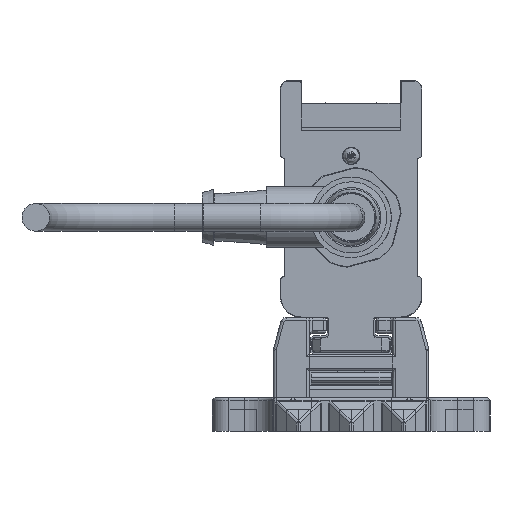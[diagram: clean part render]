
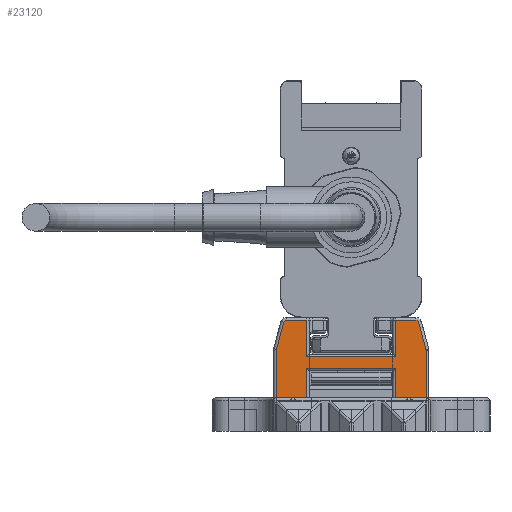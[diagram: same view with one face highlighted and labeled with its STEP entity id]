
A CAD part, left-side view. The second image highlights one B-rep face of the part: STEP entity #23120.
In plain terms, the highlighted planar face has unit normal (-1, 0, 0).
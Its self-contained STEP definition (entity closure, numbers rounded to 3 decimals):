
#23120=ADVANCED_FACE('', (#23130), #23140, .T.);
#117610=AXIS2_PLACEMENT_3D('Ax2Pl3d', #117620, #117630, #117640);
#117850=AXIS2_PLACEMENT_3D('Ax2Pl3d', #117860, #117870, #117880);
#122730=AXIS2_PLACEMENT_3D('Ax2Pl3d', #122740, #122750, #122760);
#127810=AXIS2_PLACEMENT_3D('Ax2Pl3d', #127820, #127830, #127840);
#137490=AXIS2_PLACEMENT_3D('Ax2Pl3d', #137500, #137510, #137520);
#453240=CARTESIAN_POINT('', (-747.669,-1446.345,
331.37));
#117620=CARTESIAN_POINT('HicPkt', (-747.669,-1445.379,
331.111));
#453250=CARTESIAN_POINT('', (-747.669,-1446.379,
331.111));
#453260=CARTESIAN_POINT('', (-747.669,-1445.037,
336.255));
#453280=CARTESIAN_POINT('', (-747.669,-1445.037,
336.255));
#453310=CARTESIAN_POINT('', (-747.669,-1444.554,
336.625));
#117860=CARTESIAN_POINT('HicPkt', (-747.669,-1444.554,
336.125));
#453530=CARTESIAN_POINT('', (-747.669,-1446.379,
322.625));
#453540=CARTESIAN_POINT('', (-747.669,-1440.881,
322.625));
#453550=CARTESIAN_POINT('', (-747.669,-1440.881,
322.625));
#453630=CARTESIAN_POINT('', (-747.669,-1424.881,
322.625));
#453640=CARTESIAN_POINT('', (-747.669,-1419.383,
322.625));
#453650=CARTESIAN_POINT('', (-747.669,-1419.383,
322.625));
#122740=CARTESIAN_POINT('HicPkt', (-747.669,-1421.209,
336.125));
#456120=CARTESIAN_POINT('', (-747.669,-1420.726,
336.255));
#456130=CARTESIAN_POINT('', (-747.669,-1421.209,
336.625));
#456140=CARTESIAN_POINT('', (-747.669,-1440.881,
330.025));
#456150=CARTESIAN_POINT('', (-747.669,-1424.881,
330.025));
#456160=CARTESIAN_POINT('', (-747.669,-1440.881,
330.025));
#456320=CARTESIAN_POINT('', (-747.669,-1440.881,
328.005));
#456330=CARTESIAN_POINT('', (-747.669,-1424.881,
328.005));
#456340=CARTESIAN_POINT('', (-747.669,-1424.881,
328.005));
#456350=CARTESIAN_POINT('', (-747.669,-1440.881,
328.005));
#456370=CARTESIAN_POINT('', (-747.669,-1424.881,
322.625));
#456380=CARTESIAN_POINT('', (-747.669,-1424.881,
330.025));
#456390=CARTESIAN_POINT('', (-747.669,-1424.881,
336.625));
#457240=CARTESIAN_POINT('', (-747.669,-1424.881,
336.625));
#457250=CARTESIAN_POINT('', (-747.669,-1420.726,
336.255));
#457260=CARTESIAN_POINT('', (-747.669,-1419.417,
331.37));
#457450=CARTESIAN_POINT('', (-747.669,-1419.383,
331.111));
#457460=CARTESIAN_POINT('', (-747.669,-1419.383,
331.111));
#127820=CARTESIAN_POINT('HicPkt', (-747.669,-1420.383,
331.111));
#458270=CARTESIAN_POINT('', (-747.669,-1446.379,
331.111));
#137500=CARTESIAN_POINT('HicPkt', (-747.669,-1444.554,
336.625));
#460070=CARTESIAN_POINT('', (-747.669,-1440.881,
336.625));
#460080=CARTESIAN_POINT('', (-747.669,-1440.881,
336.625));
#460090=CARTESIAN_POINT('', (-747.669,-1440.881,
336.625));
#522140=CIRCLE('Circle', #117610, 1.);
#522180=CIRCLE('Circle', #117850, 0.5);
#522760=CIRCLE('Circle', #122730, 0.5);
#523290=CIRCLE('Circle', #127810, 1.);
#117630=DIRECTION('Axis', (-1.,0.,
0.));
#117640=DIRECTION('RefDirection', (0.,
0.,-1.));
#730180=DIRECTION('', (0.,0.259,
0.966));
#117870=DIRECTION('Axis', (-1.,0.,
0.));
#117880=DIRECTION('RefDirection', (0.,
0.,-1.));
#730290=DIRECTION('', (0.,1.,0.));
#730330=DIRECTION('', (0.,1.,0.));
#122750=DIRECTION('Axis', (1.,0.,
0.));
#122760=DIRECTION('RefDirection', (0.,
0.,-1.));
#731520=DIRECTION('', (0.,-1.,0.));
#731620=DIRECTION('', (0.,1.,0.));
#731630=DIRECTION('', (0.,0.,1.));
#731650=DIRECTION('', (0.,0.,-1.));
#731660=DIRECTION('', (0.,0.,-1.));
#732090=DIRECTION('', (0.,-1.,0.));
#732100=DIRECTION('', (0.,-0.259,0.966));
#732190=DIRECTION('', (0.,0.,1.));
#127830=DIRECTION('Axis', (1.,0.,
0.));
#127840=DIRECTION('RefDirection', (0.,
0.,-1.));
#732560=DIRECTION('', (0.,0.,1.));
#137510=DIRECTION('Axis', (-1.,0.,
0.));
#137520=DIRECTION('RefDirection', (0.,
0.,-1.));
#733400=DIRECTION('', (0.,1.,0.));
#733410=DIRECTION('', (0.,0.,1.));
#785930=EDGE_CURVE('', #785940, #785920, #522140, .T.);
#785990=EDGE_CURVE('', #785920, #785970, #786000, .T.);
#786060=EDGE_CURVE('', #785970, #786050, #522180, .T.);
#786510=EDGE_CURVE('', #786500, #786520, #786530, .T.);
#786670=EDGE_CURVE('', #786660, #786680, #786690, .T.);
#791030=EDGE_CURVE('', #791040, #791050, #522760, .T.);
#791080=EDGE_CURVE('', #791090, #791100, #791110, .T.);
#791450=EDGE_CURVE('', #791430, #791460, #791470, .T.);
#791500=EDGE_CURVE('', #786520, #791430, #791510, .T.);
#791540=EDGE_CURVE('', #791460, #786660, #791550, .T.);
#791560=EDGE_CURVE('', #791570, #791090, #791580, .T.);
#793400=EDGE_CURVE('', #791050, #791570, #793410, .T.);
#793470=EDGE_CURVE('', #793480, #791040, #793490, .T.);
#793910=EDGE_CURVE('', #786680, #793920, #793930, .T.);
#793950=EDGE_CURVE('', #793920, #793480, #523290, .T.);
#795660=EDGE_CURVE('', #786500, #785940, #795670, .T.);
#799470=EDGE_CURVE('', #786050, #799480, #799490, .T.);
#799500=EDGE_CURVE('', #791100, #799480, #799510, .T.);
#950330=EDGE_LOOP('Edge_loop', (#950340,#950350,#950360,#950370,#950380,
#950390,#950400,#950410,#950420,#950430,#950440,#950450,#950460,#950470,
#950480,#950490,#950500,#950510));
#23130=FACE_OUTER_BOUND('Face_outer_bound', #950330, .T.);
#786000=LINE('Line', #453280, #1078570);
#786530=LINE('Line', #453540, #1078680);
#786690=LINE('Line', #453640, #1078720);
#791110=LINE('Line', #456140, #1079910);
#791470=LINE('Line', #456330, #1080010);
#791510=LINE('Line', #456350, #1080020);
#791550=LINE('Line', #456370, #1080040);
#791580=LINE('Line', #456380, #1080050);
#793410=LINE('Line', #457240, #1080480);
#793490=LINE('Line', #457250, #1080490);
#793930=LINE('Line', #457450, #1080580);
#795670=LINE('Line', #458270, #1080950);
#799490=LINE('Line', #460070, #1081790);
#799510=LINE('Line', #460090, #1081800);
#950340=ORIENTED_EDGE('', *, *, #799470, .T.);
#950350=ORIENTED_EDGE('', *, *, #799500, .F.);
#950360=ORIENTED_EDGE('', *, *, #791080, .F.);
#950370=ORIENTED_EDGE('', *, *, #791560, .F.);
#950380=ORIENTED_EDGE('', *, *, #793400, .F.);
#950390=ORIENTED_EDGE('', *, *, #791030, .F.);
#950400=ORIENTED_EDGE('', *, *, #793470, .F.);
#950410=ORIENTED_EDGE('', *, *, #793950, .F.);
#950420=ORIENTED_EDGE('', *, *, #793910, .F.);
#950430=ORIENTED_EDGE('', *, *, #786670, .F.);
#950440=ORIENTED_EDGE('', *, *, #791540, .F.);
#950450=ORIENTED_EDGE('', *, *, #791450, .F.);
#950460=ORIENTED_EDGE('', *, *, #791500, .F.);
#950470=ORIENTED_EDGE('', *, *, #786510, .F.);
#950480=ORIENTED_EDGE('', *, *, #795660, .T.);
#950490=ORIENTED_EDGE('', *, *, #785930, .T.);
#950500=ORIENTED_EDGE('', *, *, #785990, .T.);
#950510=ORIENTED_EDGE('', *, *, #786060, .T.);
#23140=PLANE('Plane', #137490);
#1078570=VECTOR('', #730180, 5.057);
#1078680=VECTOR('', #730290, 5.498);
#1078720=VECTOR('', #730330, 5.498);
#1079910=VECTOR('', #731520, 16.);
#1080010=VECTOR('', #731620, 16.);
#1080020=VECTOR('', #731630, 5.38);
#1080040=VECTOR('', #731650, 5.38);
#1080050=VECTOR('', #731660, 6.6);
#1080480=VECTOR('', #732090, 3.672);
#1080490=VECTOR('', #732100, 5.057);
#1080580=VECTOR('', #732190, 8.486);
#1080950=VECTOR('', #732560, 8.486);
#1081790=VECTOR('', #733400, 3.672);
#1081800=VECTOR('', #733410, 6.6);
#785920=VERTEX_POINT('', #453240);
#785940=VERTEX_POINT('', #453250);
#785970=VERTEX_POINT('', #453260);
#786050=VERTEX_POINT('', #453310);
#786500=VERTEX_POINT('', #453530);
#786520=VERTEX_POINT('', #453550);
#786660=VERTEX_POINT('', #453630);
#786680=VERTEX_POINT('', #453650);
#791040=VERTEX_POINT('', #456120);
#791050=VERTEX_POINT('', #456130);
#791090=VERTEX_POINT('', #456150);
#791100=VERTEX_POINT('', #456160);
#791430=VERTEX_POINT('', #456320);
#791460=VERTEX_POINT('', #456340);
#791570=VERTEX_POINT('', #456390);
#793480=VERTEX_POINT('', #457260);
#793920=VERTEX_POINT('', #457460);
#799480=VERTEX_POINT('', #460080);
